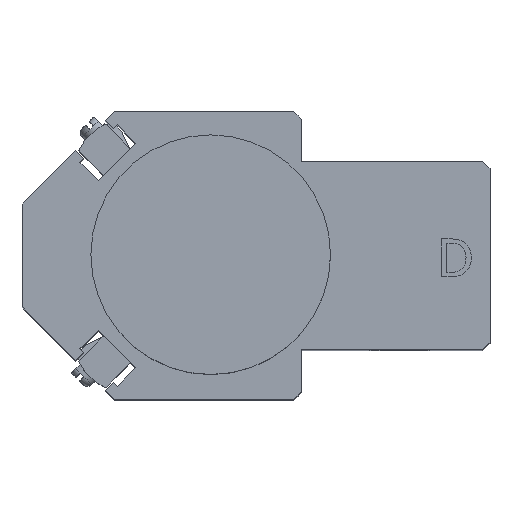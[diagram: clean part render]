
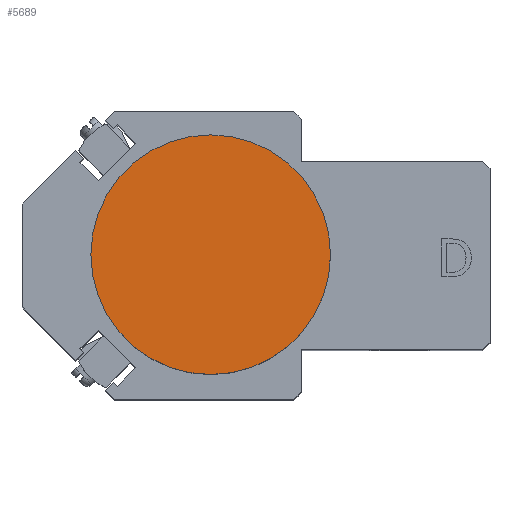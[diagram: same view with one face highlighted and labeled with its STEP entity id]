
A CAD part, top view. The second image highlights one B-rep face of the part: STEP entity #5689.
In plain terms, the highlighted planar face has unit normal (0, 0, 1) as drawn and (1, 0, 0) by its records, which use the part's own axes.
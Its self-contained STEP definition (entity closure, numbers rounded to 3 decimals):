
#499=PLANE('',#6499);
#786=FACE_OUTER_BOUND('',#1126,.T.);
#1126=EDGE_LOOP('',(#5274,#5275));
#2378=CIRCLE('',#6500,15.875);
#2379=CIRCLE('',#6501,15.875);
#2923=VERTEX_POINT('',#9972);
#2924=VERTEX_POINT('',#9973);
#3714=EDGE_CURVE('',#2923,#2924,#2378,.T.);
#3715=EDGE_CURVE('',#2924,#2923,#2379,.T.);
#5274=ORIENTED_EDGE('',*,*,#3714,.F.);
#5275=ORIENTED_EDGE('',*,*,#3715,.F.);
#5689=ADVANCED_FACE('',(#786),#499,.T.);
#6499=AXIS2_PLACEMENT_3D('',#9971,#8084,#8085);
#6500=AXIS2_PLACEMENT_3D('',#9974,#8086,#8087);
#6501=AXIS2_PLACEMENT_3D('',#9975,#8088,#8089);
#8084=DIRECTION('center_axis',(1.,0.,0.));
#8085=DIRECTION('ref_axis',(0.,0.,-1.));
#8086=DIRECTION('center_axis',(-1.,0.,0.));
#8087=DIRECTION('ref_axis',(0.,-1.,0.));
#8088=DIRECTION('center_axis',(-1.,0.,0.));
#8089=DIRECTION('ref_axis',(0.,-1.,0.));
#9971=CARTESIAN_POINT('Origin',(13.,-7.938,0.));
#9972=CARTESIAN_POINT('',(13.,-15.875,0.));
#9973=CARTESIAN_POINT('',(13.,15.875,0.));
#9974=CARTESIAN_POINT('Origin',(13.,0.,0.));
#9975=CARTESIAN_POINT('Origin',(13.,0.,0.));
